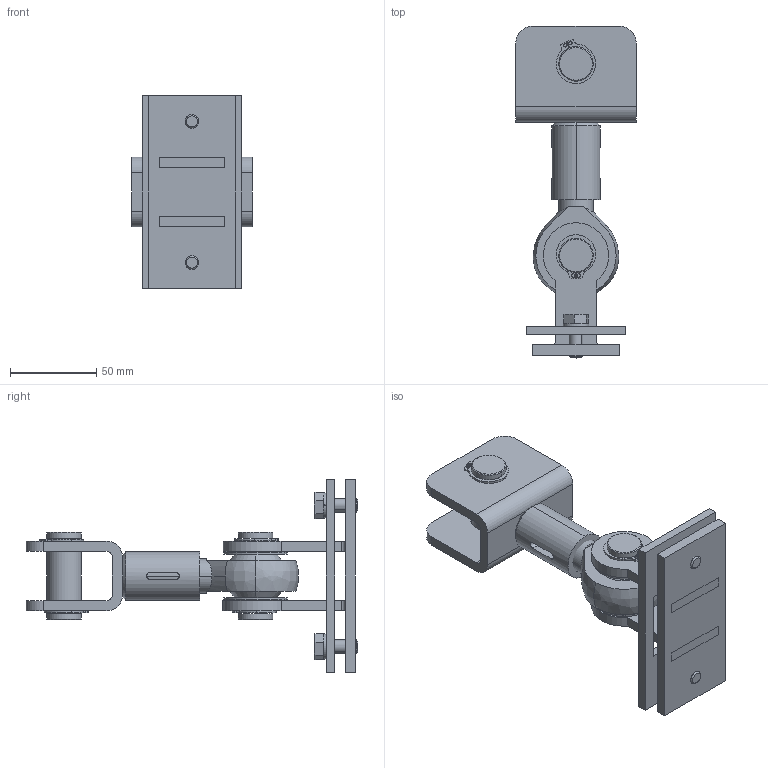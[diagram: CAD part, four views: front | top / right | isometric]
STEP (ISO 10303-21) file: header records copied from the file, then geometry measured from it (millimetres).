
FILE_DESCRIPTION (( 'STEP AP203' ), '1' );
FILE_NAME ('900.100.112.STEP', '2016-05-24T07:49:49', ( '' ), ( '' ), 'SwSTEP 2.0', 'SolidWorks 2016', '' );
FILE_SCHEMA (( 'CONFIG_CONTROL_DESIGN' ));
Length unit declared in the file: millimetre
Products named in the file (1): 900.100.112
Bounding box: 70 x 192.73 x 112 mm (x, y, z)
Surface area: 78176.2 mm2 (no closed solid volume)
Topology: 0 solids, 26 shells, 246 faces, 698 edges, 475 vertices
Faces by surface type: cylinder 109, plane 98, cone 30, bspline 9
Entity records: 8951 total; most frequent: CARTESIAN_POINT 2433, DIRECTION 1428, ORIENTED_EDGE 1186, EDGE_CURVE 698, AXIS2_PLACEMENT_3D 546, VERTEX_POINT 475, VECTOR 336, LINE 336
